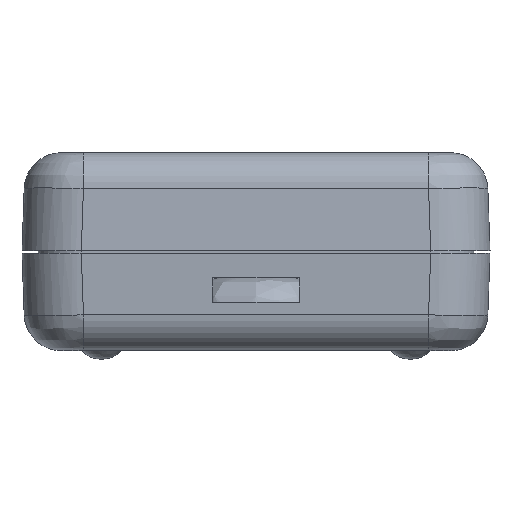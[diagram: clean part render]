
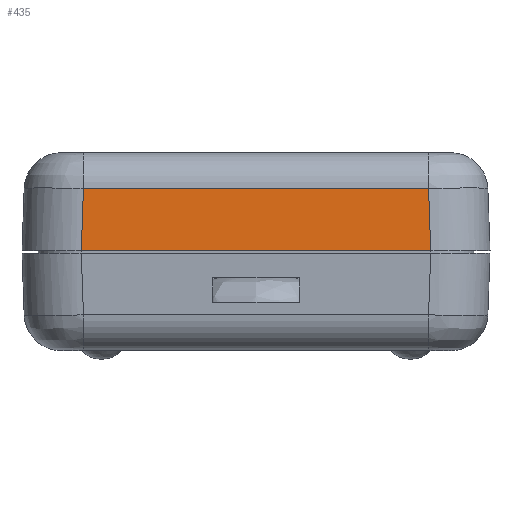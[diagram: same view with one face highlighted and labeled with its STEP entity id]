
A CAD part, left-side view. The second image highlights one B-rep face of the part: STEP entity #435.
In plain terms, the highlighted planar face has unit normal (-0.999, 0, 0.035).
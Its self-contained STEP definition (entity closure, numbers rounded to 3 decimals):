
#435=ADVANCED_FACE('',(#634),#535,.T.);
#535=PLANE('',#2666);
#634=FACE_OUTER_BOUND('',#785,.T.);
#785=EDGE_LOOP('',(#1218,#1219,#1220,#1221));
#1218=ORIENTED_EDGE('',*,*,#1891,.T.);
#1219=ORIENTED_EDGE('',*,*,#1993,.T.);
#1220=ORIENTED_EDGE('',*,*,#1985,.F.);
#1221=ORIENTED_EDGE('',*,*,#1992,.F.);
#1640=VERTEX_POINT('',#3599);
#1641=VERTEX_POINT('',#3600);
#1699=VERTEX_POINT('',#4773);
#1700=VERTEX_POINT('',#4855);
#1891=EDGE_CURVE('',#1640,#1641,#2228,.T.);
#1985=EDGE_CURVE('',#1700,#1699,#2257,.T.);
#1992=EDGE_CURVE('',#1640,#1700,#2263,.T.);
#1993=EDGE_CURVE('',#1641,#1699,#2264,.T.);
#2228=LINE('',#3598,#2422);
#2257=LINE('',#4856,#2451);
#2263=LINE('',#4967,#2457);
#2264=LINE('',#4982,#2458);
#2422=VECTOR('',#2888,1.);
#2451=VECTOR('',#3053,1.);
#2457=VECTOR('',#3061,1.);
#2458=VECTOR('',#3062,1.);
#2666=AXIS2_PLACEMENT_3D('',#4998,#3064,#3065);
#2888=DIRECTION('',(0.,-1.,0.));
#3053=DIRECTION('',(0.,-1.,0.));
#3061=DIRECTION('',(0.035,-0.035,0.999));
#3062=DIRECTION('',(0.035,0.035,0.999));
#3064=DIRECTION('',(-0.999,0.,0.035));
#3065=DIRECTION('',(0.,-1.,0.));
#3598=CARTESIAN_POINT('',(-37.92,0.,0.));
#3599=CARTESIAN_POINT('',(-37.92,14.143,0.));
#3600=CARTESIAN_POINT('',(-37.92,-14.143,0.));
#4773=CARTESIAN_POINT('',(-37.745,-13.967,5.025));
#4855=CARTESIAN_POINT('',(-37.745,13.967,5.025));
#4856=CARTESIAN_POINT('',(-37.745,0.,5.025));
#4967=CARTESIAN_POINT('',(-37.832,14.055,2.512));
#4982=CARTESIAN_POINT('',(-37.832,-14.055,2.512));
#4998=CARTESIAN_POINT('',(-37.934,20.834,-0.396));
